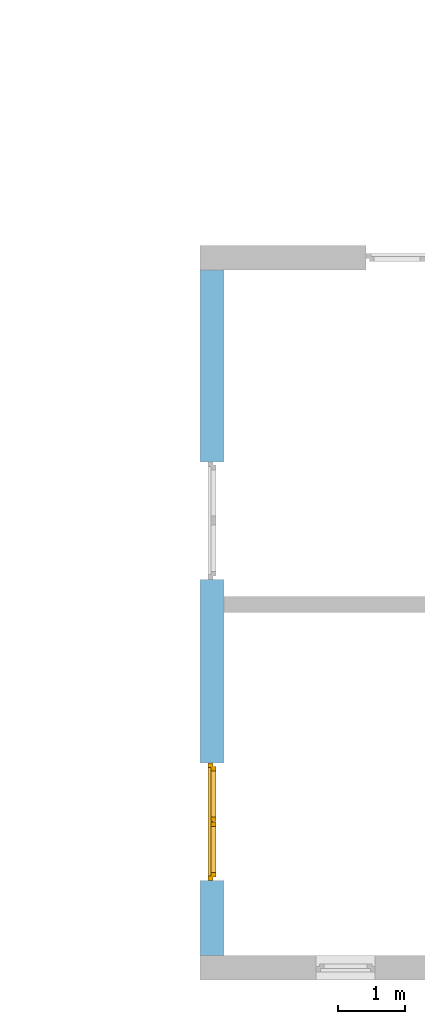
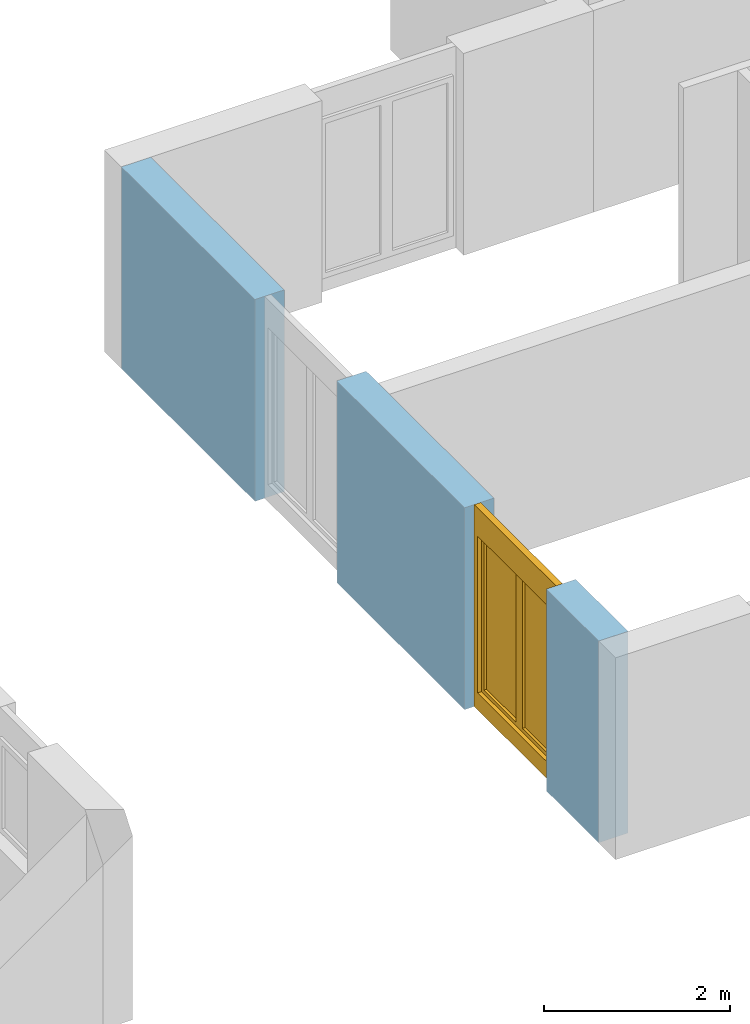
# One storey, part 16 of 42: 1 window, 2 openings, plus 1 element that does not belong to this part.
"""IFC2X3 building model written with IfcOpenShell, lengths in millimetres."""

from ifc_helpers import new_model, entity, si_unit, converted_unit, frame, frame_2d, origin, origin_with_axes, place, context, subcontext, project, spatial, rectangle, extrude, faceted_brep, material, layer, layer_set, layer_usage, type_object, element, fill, save


model = new_model("IFC2X3")

# Units and contexts
model_context = context("Model", 3, precision=1e-05, world=origin())
body_context = subcontext(model_context, "Body", "Model", "MODEL_VIEW")
ifc_project = project(units=[si_unit("LENGTHUNIT", "METRE", prefix="MILLI"), converted_unit("PLANEANGLEUNIT", "DEGREE", entity("IfcPlaneAngleMeasure", 0.0174532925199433), si_unit("PLANEANGLEUNIT", "RADIAN"), dimensions=[0, 0, 0, 0, 0, 0, 0]), si_unit("AREAUNIT", "SQUARE_METRE"), si_unit("VOLUMEUNIT", "CUBIC_METRE")], contexts=[model_context])

# Building, storey
building_placement = place(None, origin())
building = spatial("IfcBuilding", under=ifc_project, at=building_placement, Name="Gebäude", CompositionType="ELEMENT")
storey_placement = place(building_placement, frame((0.0, 0.0, 2730.0), z_axis=(0.0, 0.0, 1.0), x_axis=(1.0, 0.0, 0.0)))
storey = spatial("IfcBuildingStorey", under=building, at=storey_placement, Name="OG.- Grundriss", CompositionType="ELEMENT", Elevation=2730.0)

# Wall, openings, window
ifc_material_1 = material(Name="Poroton")
ifc_layer = layer(ifc_material_1, 365.0)
ifc_layer_set = layer_set([ifc_layer])
ifc_layer_usage = layer_usage(ifc_layer_set, "AXIS2", "POSITIVE", 0.0)
wall_placement = place(storey_placement, frame((148357.7928067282, 135909.8877324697, 0.0), z_axis=(0.0, 0.0, 1.0), x_axis=(1.70032115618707e-14, -1.0, 0.0)))
wall = element("IfcWallStandardCase", 1, at=wall_placement, inside=storey, material=ifc_layer_usage, Name="<Unnamed Element>", context=body_context, shape_type="SweptSolid", body=[
    extrude(rectangle(XDim=10269.99999999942, YDim=365.0, at=frame_2d((5134.999999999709, 182.5), x_axis=(1.0, 0.0))), origin_with_axes(), (0.0, 0.0, 1.0), 2650.0),
])
opening_1_placement = place(wall_placement, frame((2874.999999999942, -2.54658516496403e-11, 0.0), z_axis=(0.0, 1.0, 0.0), x_axis=(0.0, 0.0, 1.0)))
element("IfcOpeningElement", 2, at=opening_1_placement, cuts=wall, Name="Fensteröffnung", ObjectType="Opening", context=body_context, shape_type="SweptSolid", body=[
    extrude(rectangle(XDim=2650.0, YDim=1760.0, at=frame_2d((1325.0, 880.0), x_axis=(1.0, 0.0))), origin_with_axes(), (0.0, 0.0, 1.0), 365.0),
])
opening_2_placement = place(wall_placement, frame((7384.999999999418, -9.851646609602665e-11, 0.0), z_axis=(0.0, 1.0, 0.0), x_axis=(0.0, 0.0, 1.0)))
opening_2 = element("IfcOpeningElement", 3, at=opening_2_placement, cuts=wall, Name="Fensteröffnung", ObjectType="Opening", context=body_context, shape_type="SweptSolid", body=[
    extrude(rectangle(XDim=2650.0, YDim=1760.0, at=frame_2d((1325.0, 880.0), x_axis=(1.0, 0.0))), origin_with_axes(), (0.0, 0.0, 1.0), 365.0),
])
ifc_material_2 = material()
window_style = type_object("IfcWindowStyle", Name="Fenster", ConstructionType="NOTDEFINED", OperationType="USERDEFINED", ParameterTakesPrecedence=False, Sizeable=False)
window_placement = place(opening_2_placement, frame((0.0, 0.0, 0.0), z_axis=(1.0, 0.0, 0.0), x_axis=(0.0, 1.0, 0.0)))
window = element("IfcWindow", 4, at=window_placement, inside=storey, type_object=window_style, material=ifc_material_2, Name="Fenster", OverallHeight=2650.0, OverallWidth=1760.0, context=body_context, shape_type="Brep", body=[
    faceted_brep([(1760.000000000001, 200.0000000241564, 2650.0), (1690.000000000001, 200.0000000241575, 2650.0), (1690.000000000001, 200.0000000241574, -2.449293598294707e-15), (1760.000000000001, 200.0000000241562, -2.449293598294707e-15), (1760.0, 120.0000000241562, 2.449293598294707e-15), (1690.0, 120.0000000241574, 2.449293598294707e-15), (1690.0, 120.0000000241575, 2650.0), (1760.0, 120.0000000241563, 2650.0), (1760.000000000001, 200.0000000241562, -2.449293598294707e-15), (1760.0, 120.0000000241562, 2.449293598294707e-15), (1760.0, 120.0000000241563, 2650.0), (1760.000000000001, 200.0000000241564, 2650.0), (1690.000000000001, 200.0000000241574, -2.449293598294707e-15), (1690.0, 120.0000000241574, 2.449293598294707e-15), (1760.0, 120.0000000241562, 2.449293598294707e-15), (1760.000000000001, 200.0000000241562, -2.449293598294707e-15), (1690.000000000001, 200.0000000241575, 2650.0), (1690.0, 120.0000000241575, 2650.0), (1690.0, 120.0000000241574, 2.449293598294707e-15), (1690.000000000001, 200.0000000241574, -2.449293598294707e-15), (1760.000000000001, 200.0000000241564, 2650.0), (1760.0, 120.0000000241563, 2650.0), (1690.0, 120.0000000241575, 2650.0), (1690.000000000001, 200.0000000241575, 2650.0)], [[[0, 1, 2, 3]], [[4, 5, 6, 7]], [[8, 9, 10, 11]], [[12, 13, 14, 15]], [[16, 17, 18, 19]], [[20, 21, 22, 23]]], orient=[[False], [False], [False], [False], [False], [False]]),
    faceted_brep([(69.99999998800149, 200.000000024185, 2650.0), (-1.199850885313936e-08, 200.0000000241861, 2650.0), (-1.199850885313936e-08, 200.000000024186, -2.449293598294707e-15), (69.99999998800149, 200.0000000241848, -2.449293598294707e-15), (69.99999998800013, 120.0000000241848, 2.449293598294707e-15), (-1.199987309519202e-08, 120.000000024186, 2.449293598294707e-15), (-1.199987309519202e-08, 120.0000000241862, 2650.0), (69.99999998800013, 120.000000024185, 2650.0), (69.99999998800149, 200.0000000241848, -2.449293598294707e-15), (69.99999998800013, 120.0000000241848, 2.449293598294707e-15), (69.99999998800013, 120.000000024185, 2650.0), (69.99999998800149, 200.000000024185, 2650.0), (-1.199850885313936e-08, 200.000000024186, -2.449293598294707e-15), (-1.199987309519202e-08, 120.000000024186, 2.449293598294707e-15), (69.99999998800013, 120.0000000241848, 2.449293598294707e-15), (69.99999998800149, 200.0000000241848, -2.449293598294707e-15), (-1.199850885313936e-08, 200.0000000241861, 2650.0), (-1.199987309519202e-08, 120.0000000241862, 2650.0), (-1.199987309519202e-08, 120.000000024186, 2.449293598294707e-15), (-1.199850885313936e-08, 200.000000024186, -2.449293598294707e-15), (69.99999998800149, 200.000000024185, 2650.0), (69.99999998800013, 120.000000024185, 2650.0), (-1.199987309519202e-08, 120.0000000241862, 2650.0), (-1.199850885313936e-08, 200.0000000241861, 2650.0)], [[[0, 1, 2, 3]], [[4, 5, 6, 7]], [[8, 9, 10, 11]], [[12, 13, 14, 15]], [[16, 17, 18, 19]], [[20, 21, 22, 23]]], orient=[[False], [False], [False], [False], [False], [False]]),
    faceted_brep([(1690.000000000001, 200.0000000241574, 220.0), (69.99999998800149, 200.0000000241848, 220.0), (69.99999998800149, 200.0000000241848, -2.449293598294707e-15), (1690.000000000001, 200.0000000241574, -2.449293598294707e-15), (1690.0, 120.0000000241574, 2.449293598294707e-15), (69.99999998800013, 120.0000000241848, 2.449293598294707e-15), (69.99999998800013, 120.0000000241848, 220.0), (1690.0, 120.0000000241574, 220.0), (1690.000000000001, 200.0000000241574, -2.449293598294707e-15), (1690.0, 120.0000000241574, 2.449293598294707e-15), (1690.0, 120.0000000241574, 220.0), (1690.000000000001, 200.0000000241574, 220.0), (69.99999998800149, 200.0000000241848, -2.449293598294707e-15), (69.99999998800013, 120.0000000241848, 2.449293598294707e-15), (1690.0, 120.0000000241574, 2.449293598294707e-15), (1690.000000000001, 200.0000000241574, -2.449293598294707e-15), (69.99999998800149, 200.0000000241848, 220.0), (69.99999998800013, 120.0000000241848, 220.0), (69.99999998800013, 120.0000000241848, 2.449293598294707e-15), (69.99999998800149, 200.0000000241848, -2.449293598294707e-15), (1690.000000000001, 200.0000000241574, 220.0), (1690.0, 120.0000000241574, 220.0), (69.99999998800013, 120.0000000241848, 220.0), (69.99999998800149, 200.0000000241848, 220.0)], [[[0, 1, 2, 3]], [[4, 5, 6, 7]], [[8, 9, 10, 11]], [[12, 13, 14, 15]], [[16, 17, 18, 19]], [[20, 21, 22, 23]]], orient=[[False], [False], [False], [False], [False], [False]]),
    faceted_brep([(1690.000000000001, 200.0000000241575, 2650.0), (69.99999998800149, 200.000000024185, 2650.0), (69.99999998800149, 200.0000000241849, 2280.0), (1690.000000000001, 200.0000000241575, 2280.0), (1690.0, 120.0000000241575, 2280.0), (69.99999998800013, 120.000000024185, 2280.0), (69.99999998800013, 120.000000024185, 2650.0), (1690.0, 120.0000000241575, 2650.0), (1690.000000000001, 200.0000000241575, 2280.0), (1690.0, 120.0000000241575, 2280.0), (1690.0, 120.0000000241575, 2650.0), (1690.000000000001, 200.0000000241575, 2650.0), (69.99999998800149, 200.0000000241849, 2280.0), (69.99999998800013, 120.000000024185, 2280.0), (1690.0, 120.0000000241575, 2280.0), (1690.000000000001, 200.0000000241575, 2280.0), (69.99999998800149, 200.000000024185, 2650.0), (69.99999998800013, 120.000000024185, 2650.0), (69.99999998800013, 120.000000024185, 2280.0), (69.99999998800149, 200.0000000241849, 2280.0), (1690.000000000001, 200.0000000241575, 2650.0), (1690.0, 120.0000000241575, 2650.0), (69.99999998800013, 120.000000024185, 2650.0), (69.99999998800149, 200.000000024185, 2650.0)], [[[0, 1, 2, 3]], [[4, 5, 6, 7]], [[8, 9, 10, 11]], [[12, 13, 14, 15]], [[16, 17, 18, 19]], [[20, 21, 22, 23]]], orient=[[False], [False], [False], [False], [False], [False]]),
    faceted_brep([(1710.000000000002, 240.0000000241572, 2300.0), (1640.000000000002, 240.0000000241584, 2300.0), (1640.000000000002, 240.0000000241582, 200.0), (1710.000000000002, 240.0000000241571, 200.0), (1710.000000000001, 170.0000000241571, 200.0), (1640.000000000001, 170.0000000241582, 200.0), (1640.000000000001, 170.0000000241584, 2300.0), (1710.000000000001, 170.0000000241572, 2300.0), (1710.000000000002, 240.0000000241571, 200.0), (1710.000000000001, 170.0000000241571, 200.0), (1710.000000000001, 170.0000000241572, 2300.0), (1710.000000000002, 240.0000000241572, 2300.0), (1640.000000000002, 240.0000000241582, 200.0), (1640.000000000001, 170.0000000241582, 200.0), (1710.000000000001, 170.0000000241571, 200.0), (1710.000000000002, 240.0000000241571, 200.0), (1640.000000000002, 240.0000000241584, 2300.0), (1640.000000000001, 170.0000000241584, 2300.0), (1640.000000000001, 170.0000000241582, 200.0), (1640.000000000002, 240.0000000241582, 200.0), (1710.000000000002, 240.0000000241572, 2300.0), (1710.000000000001, 170.0000000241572, 2300.0), (1640.000000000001, 170.0000000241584, 2300.0), (1640.000000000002, 240.0000000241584, 2300.0)], [[[0, 1, 2, 3]], [[4, 5, 6, 7]], [[8, 9, 10, 11]], [[12, 13, 14, 15]], [[16, 17, 18, 19]], [[20, 21, 22, 23]]], orient=[[False], [False], [False], [False], [False], [False]]),
    faceted_brep([(950.4999999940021, 240.0000000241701, 2300.0), (880.4999999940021, 240.0000000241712, 2300.0), (880.4999999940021, 240.0000000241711, 200.0), (950.4999999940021, 240.0000000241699, 200.0), (950.4999999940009, 170.0000000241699, 200.0), (880.4999999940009, 170.0000000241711, 200.0), (880.4999999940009, 170.0000000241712, 2300.0), (950.4999999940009, 170.0000000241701, 2300.0), (950.4999999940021, 240.0000000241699, 200.0), (950.4999999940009, 170.0000000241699, 200.0), (950.4999999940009, 170.0000000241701, 2300.0), (950.4999999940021, 240.0000000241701, 2300.0), (880.4999999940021, 240.0000000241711, 200.0), (880.4999999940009, 170.0000000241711, 200.0), (950.4999999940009, 170.0000000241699, 200.0), (950.4999999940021, 240.0000000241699, 200.0), (880.4999999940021, 240.0000000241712, 2300.0), (880.4999999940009, 170.0000000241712, 2300.0), (880.4999999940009, 170.0000000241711, 200.0), (880.4999999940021, 240.0000000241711, 200.0), (950.4999999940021, 240.0000000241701, 2300.0), (950.4999999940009, 170.0000000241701, 2300.0), (880.4999999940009, 170.0000000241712, 2300.0), (880.4999999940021, 240.0000000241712, 2300.0)], [[[0, 1, 2, 3]], [[4, 5, 6, 7]], [[8, 9, 10, 11]], [[12, 13, 14, 15]], [[16, 17, 18, 19]], [[20, 21, 22, 23]]], orient=[[False], [False], [False], [False], [False], [False]]),
    faceted_brep([(1640.000000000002, 240.0000000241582, 270.0), (950.4999999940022, 240.0000000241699, 270.0), (950.4999999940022, 240.0000000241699, 200.0), (1640.000000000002, 240.0000000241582, 200.0), (1640.000000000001, 170.0000000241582, 200.0), (950.499999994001, 170.0000000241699, 200.0), (950.499999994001, 170.0000000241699, 270.0), (1640.000000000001, 170.0000000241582, 270.0), (1640.000000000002, 240.0000000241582, 200.0), (1640.000000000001, 170.0000000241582, 200.0), (1640.000000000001, 170.0000000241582, 270.0), (1640.000000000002, 240.0000000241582, 270.0), (950.4999999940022, 240.0000000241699, 200.0), (950.499999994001, 170.0000000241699, 200.0), (1640.000000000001, 170.0000000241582, 200.0), (1640.000000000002, 240.0000000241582, 200.0), (950.4999999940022, 240.0000000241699, 270.0), (950.499999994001, 170.0000000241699, 270.0), (950.499999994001, 170.0000000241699, 200.0), (950.4999999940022, 240.0000000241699, 200.0), (1640.000000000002, 240.0000000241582, 270.0), (1640.000000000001, 170.0000000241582, 270.0), (950.499999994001, 170.0000000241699, 270.0), (950.4999999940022, 240.0000000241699, 270.0)], [[[0, 1, 2, 3]], [[4, 5, 6, 7]], [[8, 9, 10, 11]], [[12, 13, 14, 15]], [[16, 17, 18, 19]], [[20, 21, 22, 23]]], orient=[[False], [False], [False], [False], [False], [False]]),
    faceted_brep([(1640.000000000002, 240.0000000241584, 2300.0), (950.4999999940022, 240.0000000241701, 2300.0), (950.4999999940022, 240.0000000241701, 2230.0), (1640.000000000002, 240.0000000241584, 2230.0), (1640.000000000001, 170.0000000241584, 2230.0), (950.499999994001, 170.0000000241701, 2230.0), (950.499999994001, 170.0000000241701, 2300.0), (1640.000000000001, 170.0000000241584, 2300.0), (1640.000000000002, 240.0000000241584, 2230.0), (1640.000000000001, 170.0000000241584, 2230.0), (1640.000000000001, 170.0000000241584, 2300.0), (1640.000000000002, 240.0000000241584, 2300.0), (950.4999999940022, 240.0000000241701, 2230.0), (950.499999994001, 170.0000000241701, 2230.0), (1640.000000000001, 170.0000000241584, 2230.0), (1640.000000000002, 240.0000000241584, 2230.0), (950.4999999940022, 240.0000000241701, 2300.0), (950.499999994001, 170.0000000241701, 2300.0), (950.499999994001, 170.0000000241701, 2230.0), (950.4999999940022, 240.0000000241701, 2230.0), (1640.000000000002, 240.0000000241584, 2300.0), (1640.000000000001, 170.0000000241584, 2300.0), (950.499999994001, 170.0000000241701, 2300.0), (950.4999999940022, 240.0000000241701, 2300.0)], [[[0, 1, 2, 3]], [[4, 5, 6, 7]], [[8, 9, 10, 11]], [[12, 13, 14, 15]], [[16, 17, 18, 19]], [[20, 21, 22, 23]]], orient=[[False], [False], [False], [False], [False], [False]]),
    faceted_brep([(879.4999999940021, 240.0000000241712, 2300.0), (809.4999999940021, 240.0000000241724, 2300.0), (809.4999999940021, 240.0000000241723, 200.0), (879.4999999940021, 240.0000000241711, 200.0), (879.4999999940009, 170.0000000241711, 200.0), (809.4999999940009, 170.0000000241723, 200.0), (809.4999999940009, 170.0000000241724, 2300.0), (879.4999999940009, 170.0000000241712, 2300.0), (879.4999999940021, 240.0000000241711, 200.0), (879.4999999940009, 170.0000000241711, 200.0), (879.4999999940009, 170.0000000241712, 2300.0), (879.4999999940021, 240.0000000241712, 2300.0), (809.4999999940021, 240.0000000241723, 200.0), (809.4999999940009, 170.0000000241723, 200.0), (879.4999999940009, 170.0000000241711, 200.0), (879.4999999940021, 240.0000000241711, 200.0), (809.4999999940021, 240.0000000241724, 2300.0), (809.4999999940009, 170.0000000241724, 2300.0), (809.4999999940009, 170.0000000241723, 200.0), (809.4999999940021, 240.0000000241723, 200.0), (879.4999999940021, 240.0000000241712, 2300.0), (879.4999999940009, 170.0000000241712, 2300.0), (809.4999999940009, 170.0000000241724, 2300.0), (809.4999999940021, 240.0000000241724, 2300.0)], [[[0, 1, 2, 3]], [[4, 5, 6, 7]], [[8, 9, 10, 11]], [[12, 13, 14, 15]], [[16, 17, 18, 19]], [[20, 21, 22, 23]]], orient=[[False], [False], [False], [False], [False], [False]]),
    faceted_brep([(119.9999999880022, 240.0000000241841, 2300.0), (49.99999998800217, 240.0000000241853, 2300.0), (49.99999998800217, 240.0000000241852, 200.0), (119.9999999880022, 240.000000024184, 200.0), (119.999999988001, 170.000000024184, 200.0), (49.99999998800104, 170.0000000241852, 200.0), (49.99999998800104, 170.0000000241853, 2300.0), (119.999999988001, 170.0000000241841, 2300.0), (119.9999999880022, 240.000000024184, 200.0), (119.999999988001, 170.000000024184, 200.0), (119.999999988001, 170.0000000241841, 2300.0), (119.9999999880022, 240.0000000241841, 2300.0), (49.99999998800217, 240.0000000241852, 200.0), (49.99999998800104, 170.0000000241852, 200.0), (119.999999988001, 170.000000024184, 200.0), (119.9999999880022, 240.000000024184, 200.0), (49.99999998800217, 240.0000000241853, 2300.0), (49.99999998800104, 170.0000000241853, 2300.0), (49.99999998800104, 170.0000000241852, 200.0), (49.99999998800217, 240.0000000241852, 200.0), (119.9999999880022, 240.0000000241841, 2300.0), (119.999999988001, 170.0000000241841, 2300.0), (49.99999998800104, 170.0000000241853, 2300.0), (49.99999998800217, 240.0000000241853, 2300.0)], [[[0, 1, 2, 3]], [[4, 5, 6, 7]], [[8, 9, 10, 11]], [[12, 13, 14, 15]], [[16, 17, 18, 19]], [[20, 21, 22, 23]]], orient=[[False], [False], [False], [False], [False], [False]]),
    faceted_brep([(809.4999999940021, 240.0000000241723, 270.0), (119.9999999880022, 240.000000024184, 270.0), (119.9999999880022, 240.000000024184, 200.0), (809.4999999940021, 240.0000000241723, 200.0), (809.4999999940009, 170.0000000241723, 200.0), (119.999999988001, 170.000000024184, 200.0), (119.999999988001, 170.000000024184, 270.0), (809.4999999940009, 170.0000000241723, 270.0), (809.4999999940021, 240.0000000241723, 200.0), (809.4999999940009, 170.0000000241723, 200.0), (809.4999999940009, 170.0000000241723, 270.0), (809.4999999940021, 240.0000000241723, 270.0), (119.9999999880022, 240.000000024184, 200.0), (119.999999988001, 170.000000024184, 200.0), (809.4999999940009, 170.0000000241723, 200.0), (809.4999999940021, 240.0000000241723, 200.0), (119.9999999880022, 240.000000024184, 270.0), (119.999999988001, 170.000000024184, 270.0), (119.999999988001, 170.000000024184, 200.0), (119.9999999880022, 240.000000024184, 200.0), (809.4999999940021, 240.0000000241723, 270.0), (809.4999999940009, 170.0000000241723, 270.0), (119.999999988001, 170.000000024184, 270.0), (119.9999999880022, 240.000000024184, 270.0)], [[[0, 1, 2, 3]], [[4, 5, 6, 7]], [[8, 9, 10, 11]], [[12, 13, 14, 15]], [[16, 17, 18, 19]], [[20, 21, 22, 23]]], orient=[[False], [False], [False], [False], [False], [False]]),
    faceted_brep([(809.4999999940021, 240.0000000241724, 2300.0), (119.9999999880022, 240.0000000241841, 2300.0), (119.9999999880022, 240.0000000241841, 2230.0), (809.4999999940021, 240.0000000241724, 2230.0), (809.4999999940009, 170.0000000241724, 2230.0), (119.999999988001, 170.0000000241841, 2230.0), (119.999999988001, 170.0000000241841, 2300.0), (809.4999999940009, 170.0000000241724, 2300.0), (809.4999999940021, 240.0000000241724, 2230.0), (809.4999999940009, 170.0000000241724, 2230.0), (809.4999999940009, 170.0000000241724, 2300.0), (809.4999999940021, 240.0000000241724, 2300.0), (119.9999999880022, 240.0000000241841, 2230.0), (119.999999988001, 170.0000000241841, 2230.0), (809.4999999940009, 170.0000000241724, 2230.0), (809.4999999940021, 240.0000000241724, 2230.0), (119.9999999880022, 240.0000000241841, 2300.0), (119.999999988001, 170.0000000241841, 2300.0), (119.999999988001, 170.0000000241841, 2230.0), (119.9999999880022, 240.0000000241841, 2230.0), (809.4999999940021, 240.0000000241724, 2300.0), (809.4999999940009, 170.0000000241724, 2300.0), (119.999999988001, 170.0000000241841, 2300.0), (119.9999999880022, 240.0000000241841, 2300.0)], [[[0, 1, 2, 3]], [[4, 5, 6, 7]], [[8, 9, 10, 11]], [[12, 13, 14, 15]], [[16, 17, 18, 19]], [[20, 21, 22, 23]]], orient=[[False], [False], [False], [False], [False], [False]]),
    faceted_brep([(1640.000000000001, 205.0000000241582, 270.0), (1640.000000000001, 205.0000000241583, 2229.999999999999), (950.4999999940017, 205.0000000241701, 2229.999999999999), (950.4999999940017, 205.0000000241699, 270.0), (1640.000000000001, 204.0000000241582, 270.0), (950.4999999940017, 204.0000000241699, 270.0), (950.4999999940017, 204.0000000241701, 2229.999999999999), (1640.000000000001, 204.0000000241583, 2229.999999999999), (1640.000000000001, 205.0000000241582, 270.0), (1640.000000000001, 204.0000000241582, 270.0), (1640.000000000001, 204.0000000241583, 2229.999999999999), (1640.000000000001, 205.0000000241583, 2229.999999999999), (1640.000000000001, 205.0000000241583, 2229.999999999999), (1640.000000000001, 204.0000000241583, 2229.999999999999), (950.4999999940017, 204.0000000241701, 2229.999999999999), (950.4999999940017, 205.0000000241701, 2229.999999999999), (950.4999999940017, 205.0000000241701, 2229.999999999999), (950.4999999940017, 204.0000000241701, 2229.999999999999), (950.4999999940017, 204.0000000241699, 270.0), (950.4999999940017, 205.0000000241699, 270.0), (950.4999999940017, 205.0000000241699, 270.0), (950.4999999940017, 204.0000000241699, 270.0), (1640.000000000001, 204.0000000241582, 270.0), (1640.000000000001, 205.0000000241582, 270.0)], [[[0, 1, 2, 3]], [[4, 5, 6, 7]], [[8, 9, 10, 11]], [[12, 13, 14, 15]], [[16, 17, 18, 19]], [[20, 21, 22, 23]]], orient=[[False], [False], [False], [False], [False], [False]]),
    faceted_brep([(809.4999999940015, 205.0000000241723, 270.0), (809.4999999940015, 205.0000000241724, 2229.999999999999), (119.9999999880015, 205.0000000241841, 2229.999999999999), (119.9999999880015, 205.000000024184, 270.0), (809.4999999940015, 204.0000000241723, 270.0), (119.9999999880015, 204.000000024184, 270.0), (119.9999999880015, 204.0000000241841, 2229.999999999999), (809.4999999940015, 204.0000000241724, 2229.999999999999), (809.4999999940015, 205.0000000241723, 270.0), (809.4999999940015, 204.0000000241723, 270.0), (809.4999999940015, 204.0000000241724, 2229.999999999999), (809.4999999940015, 205.0000000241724, 2229.999999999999), (809.4999999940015, 205.0000000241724, 2229.999999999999), (809.4999999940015, 204.0000000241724, 2229.999999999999), (119.9999999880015, 204.0000000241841, 2229.999999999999), (119.9999999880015, 205.0000000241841, 2229.999999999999), (119.9999999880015, 205.0000000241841, 2229.999999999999), (119.9999999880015, 204.0000000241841, 2229.999999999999), (119.9999999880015, 204.000000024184, 270.0), (119.9999999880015, 205.000000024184, 270.0), (119.9999999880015, 205.000000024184, 270.0), (119.9999999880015, 204.000000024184, 270.0), (809.4999999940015, 204.0000000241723, 270.0), (809.4999999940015, 205.0000000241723, 270.0)], [[[0, 1, 2, 3]], [[4, 5, 6, 7]], [[8, 9, 10, 11]], [[12, 13, 14, 15]], [[16, 17, 18, 19]], [[20, 21, 22, 23]]], orient=[[False], [False], [False], [False], [False], [False]]),
])
fill(opening_2, window)

save(model, "model.ifc")
